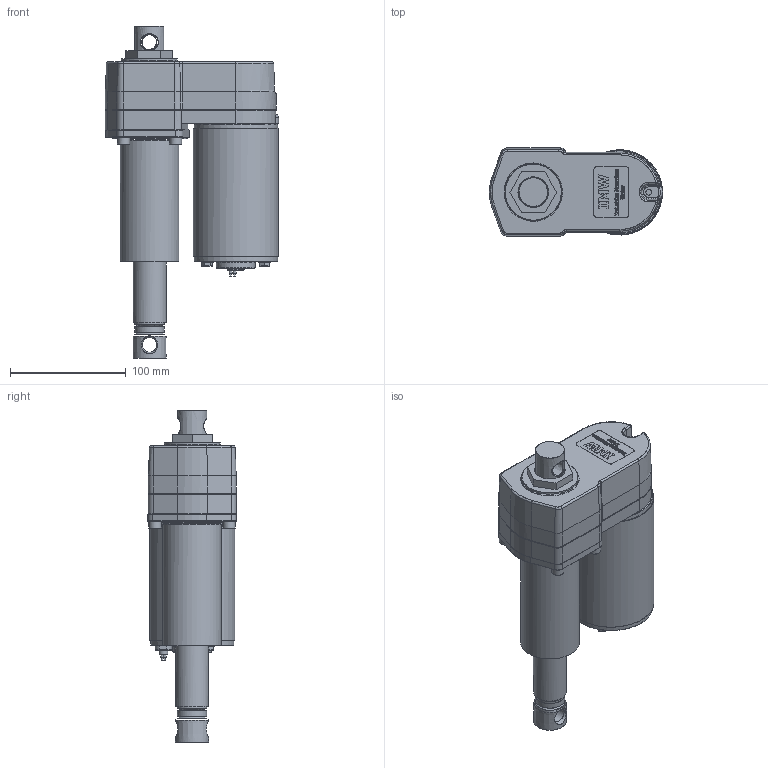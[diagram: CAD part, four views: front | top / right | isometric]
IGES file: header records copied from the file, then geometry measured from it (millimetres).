
Start section: SolidWorks IGES file using analytic representation for surfaces
Global section: file name: H:\MARCELO\014 PAGINA WEB\ACTUADOR LINEAL\WWELACT - 2 2P\welact - 2 - 2\WELACT-2-2-PMS.IGS; native system: SolidWorks 2017; preprocessor: SolidWorks 2017; author: IMW-200; date: 240209.144143; units: millimetre
Bounding box: 149.98 x 76.5 x 287.37 mm (x, y, z)
Surface area: 216412.4 mm2 (no closed solid volume)
Topology: 0 solids, 0 shells, 1586 faces, 18002 edges, 17779 vertices
Faces by surface type: bspline 1108, revolution 478
